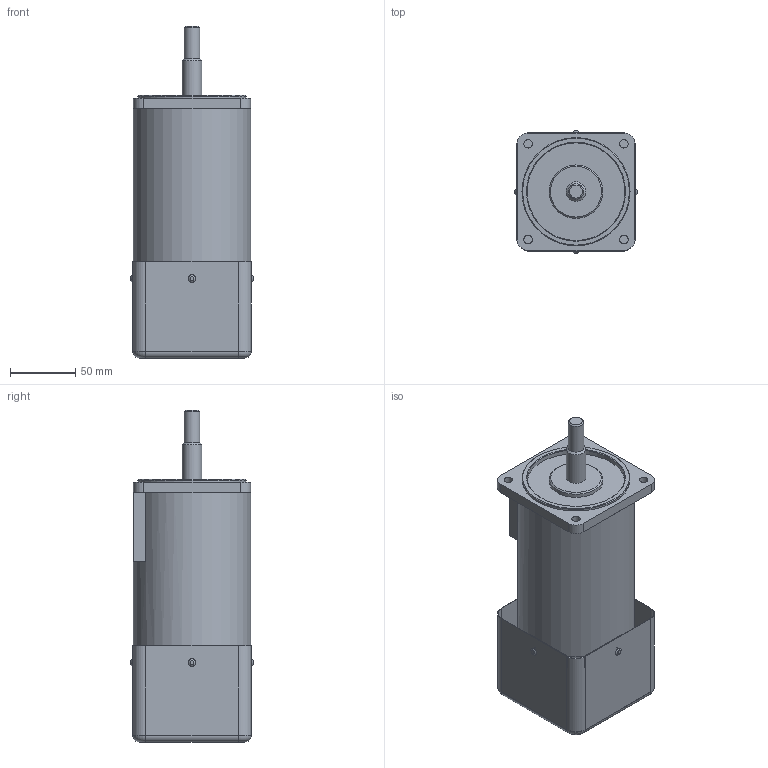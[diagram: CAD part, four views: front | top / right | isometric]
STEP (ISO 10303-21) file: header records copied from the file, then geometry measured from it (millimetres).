
FILE_DESCRIPTION (( 'STEP AP203' ), '1' );
FILE_NAME ('9SDG¤±-180F2HC.STEP', '2020-06-19T08:06:54', ( '' ), ( '' ), 'SwSTEP 2.0', 'SolidWorks 2012', '' );
FILE_SCHEMA (( 'CONFIG_CONTROL_DESIGN' ));
Length unit declared in the file: millimetre
Products named in the file (4): 9SDG､ｱ-180F2HC; FC-F2_ル遽; T.G; 9IDG､ｱ-180HC_ﾇ･ﾁﾘ
Assembly tree (3 placements, depth 2):
  9SDG､ｱ-180F2HC
    9IDG､ｱ-180HC_ﾇ･ﾁﾘ
    T.G
    FC-F2_ル遽
Bounding box: 94 x 94 x 254.8 mm (x, y, z)
Volume: 1028880.4 mm3; surface area: 147437.7 mm2
Topology: 4 solids, 4 shells, 288 faces, 709 edges, 455 vertices
Faces by surface type: cylinder 163, plane 103, cone 10, torus 10, bspline 2
Full cylindrical faces by diameter (mm): 3 x12, 3.5 x2, 6.5 x4, 9 x1, 10.2 x1, 11.93 x1, 15 x1, 38 x1, 41 x1, 44.7 x1, 67 x2, 75 x1, 83 x1, 86.5 x1, 90 x1
Entity records: 9478 total; most frequent: CARTESIAN_POINT 2260, DIRECTION 1508, ORIENTED_EDGE 1310, EDGE_CURVE 655, AXIS2_PLACEMENT_3D 621, VERTEX_POINT 445, EDGE_LOOP 396, CIRCLE 329
